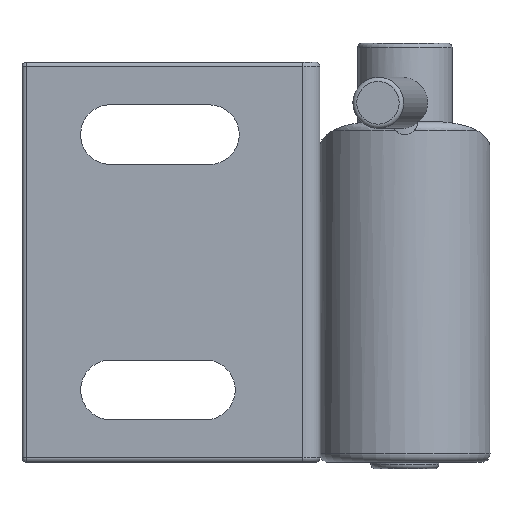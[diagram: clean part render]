
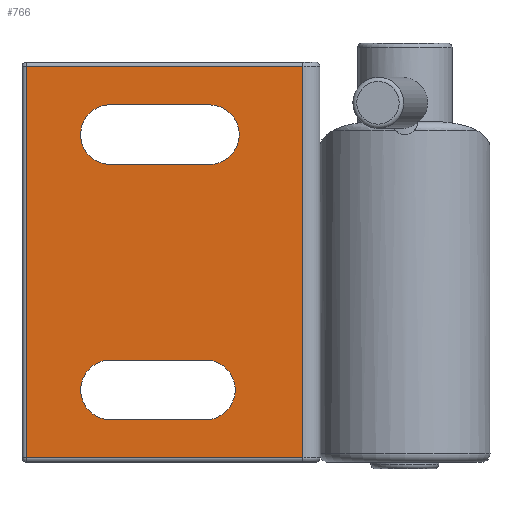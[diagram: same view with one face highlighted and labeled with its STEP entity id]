
A CAD part, left-side view. The second image highlights one B-rep face of the part: STEP entity #766.
In plain terms, the highlighted planar face has unit normal (-1, 0, 0).
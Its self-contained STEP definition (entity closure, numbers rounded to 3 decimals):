
#555=LINE('',#2163,#611);
#556=LINE('',#2168,#612);
#557=LINE('',#2171,#613);
#558=LINE('',#2174,#614);
#559=LINE('',#2176,#615);
#560=LINE('',#2178,#616);
#561=LINE('',#2182,#617);
#562=LINE('',#2186,#618);
#611=VECTOR('',#1792,1.);
#612=VECTOR('',#1795,1.);
#613=VECTOR('',#1798,1.);
#614=VECTOR('',#1799,1.);
#615=VECTOR('',#1800,1.);
#616=VECTOR('',#1801,1.);
#617=VECTOR('',#1804,1.);
#618=VECTOR('',#1807,1.);
#721=FACE_BOUND('',#924,.T.);
#722=FACE_BOUND('',#925,.T.);
#723=FACE_BOUND('',#926,.T.);
#766=ADVANCED_FACE('',(#721,#722,#723),#839,.F.);
#839=PLANE('',#1616);
#924=EDGE_LOOP('',(#1035,#1036,#1037,#1038));
#925=EDGE_LOOP('',(#1039,#1040,#1041,#1042));
#926=EDGE_LOOP('',(#1043,#1044,#1045,#1046));
#1035=ORIENTED_EDGE('',*,*,#1401,.F.);
#1036=ORIENTED_EDGE('',*,*,#1402,.F.);
#1037=ORIENTED_EDGE('',*,*,#1403,.F.);
#1038=ORIENTED_EDGE('',*,*,#1404,.F.);
#1039=ORIENTED_EDGE('',*,*,#1405,.F.);
#1040=ORIENTED_EDGE('',*,*,#1406,.T.);
#1041=ORIENTED_EDGE('',*,*,#1407,.T.);
#1042=ORIENTED_EDGE('',*,*,#1408,.T.);
#1043=ORIENTED_EDGE('',*,*,#1409,.F.);
#1044=ORIENTED_EDGE('',*,*,#1410,.F.);
#1045=ORIENTED_EDGE('',*,*,#1411,.F.);
#1046=ORIENTED_EDGE('',*,*,#1412,.F.);
#1311=VERTEX_POINT('',#2164);
#1312=VERTEX_POINT('',#2165);
#1313=VERTEX_POINT('',#2167);
#1314=VERTEX_POINT('',#2169);
#1315=VERTEX_POINT('',#2172);
#1316=VERTEX_POINT('',#2173);
#1317=VERTEX_POINT('',#2175);
#1318=VERTEX_POINT('',#2177);
#1319=VERTEX_POINT('',#2180);
#1320=VERTEX_POINT('',#2181);
#1321=VERTEX_POINT('',#2183);
#1322=VERTEX_POINT('',#2185);
#1401=EDGE_CURVE('',#1311,#1312,#555,.T.);
#1402=EDGE_CURVE('',#1313,#1311,#1533,.T.);
#1403=EDGE_CURVE('',#1314,#1313,#556,.T.);
#1404=EDGE_CURVE('',#1312,#1314,#1534,.T.);
#1405=EDGE_CURVE('',#1315,#1316,#557,.T.);
#1406=EDGE_CURVE('',#1315,#1317,#558,.T.);
#1407=EDGE_CURVE('',#1317,#1318,#559,.T.);
#1408=EDGE_CURVE('',#1318,#1316,#560,.T.);
#1409=EDGE_CURVE('',#1319,#1320,#1535,.T.);
#1410=EDGE_CURVE('',#1321,#1319,#561,.T.);
#1411=EDGE_CURVE('',#1322,#1321,#1536,.T.);
#1412=EDGE_CURVE('',#1320,#1322,#562,.T.);
#1533=CIRCLE('',#1612,3.533);
#1534=CIRCLE('',#1613,3.525);
#1535=CIRCLE('',#1614,3.5);
#1536=CIRCLE('',#1615,3.523);
#1612=AXIS2_PLACEMENT_3D('',#2166,#1793,#1794);
#1613=AXIS2_PLACEMENT_3D('',#2170,#1796,#1797);
#1614=AXIS2_PLACEMENT_3D('',#2179,#1802,#1803);
#1615=AXIS2_PLACEMENT_3D('',#2184,#1805,#1806);
#1616=AXIS2_PLACEMENT_3D('',#2187,#1808,#1809);
#1792=DIRECTION('',(0.,1.,0.));
#1793=DIRECTION('',(-1.,0.,0.));
#1794=DIRECTION('',(0.,1.,0.));
#1795=DIRECTION('',(0.,-1.,0.));
#1796=DIRECTION('',(-1.,0.,0.));
#1797=DIRECTION('',(0.,1.,0.));
#1798=DIRECTION('',(0.,0.,-1.));
#1799=DIRECTION('',(0.,1.,0.));
#1800=DIRECTION('',(0.,0.,-1.));
#1801=DIRECTION('',(0.,-1.,0.));
#1802=DIRECTION('',(-1.,0.,0.));
#1803=DIRECTION('',(0.,1.,0.));
#1804=DIRECTION('',(0.,-1.,0.));
#1805=DIRECTION('',(-1.,0.,0.));
#1806=DIRECTION('',(0.,1.,0.));
#1807=DIRECTION('',(0.,1.,0.));
#1808=DIRECTION('',(1.,0.,0.));
#1809=DIRECTION('',(0.,1.,0.));
#2163=CARTESIAN_POINT('',(0.,35.,12.));
#2164=CARTESIAN_POINT('',(0.,13.,12.));
#2165=CARTESIAN_POINT('',(0.,25.,12.));
#2166=CARTESIAN_POINT('',(0.,13.484,8.5));
#2167=CARTESIAN_POINT('',(0.,13.,5.));
#2168=CARTESIAN_POINT('',(0.,35.,5.));
#2169=CARTESIAN_POINT('',(0.,25.,5.));
#2170=CARTESIAN_POINT('',(0.,24.578,8.5));
#2171=CARTESIAN_POINT('',(0.,2.,47.));
#2172=CARTESIAN_POINT('',(0.,2.,46.5));
#2173=CARTESIAN_POINT('',(0.,2.,0.5));
#2174=CARTESIAN_POINT('',(0.,35.,46.5));
#2175=CARTESIAN_POINT('',(0.,34.5,46.5));
#2176=CARTESIAN_POINT('',(0.,34.5,47.));
#2177=CARTESIAN_POINT('',(0.,34.5,0.5));
#2178=CARTESIAN_POINT('',(0.,35.,0.5));
#2179=CARTESIAN_POINT('',(0.,12.976,38.5));
#2180=CARTESIAN_POINT('',(0.,13.,35.));
#2181=CARTESIAN_POINT('',(0.,13.,42.));
#2182=CARTESIAN_POINT('',(0.,35.,35.));
#2183=CARTESIAN_POINT('',(0.,25.,35.));
#2184=CARTESIAN_POINT('',(0.,24.595,38.5));
#2185=CARTESIAN_POINT('',(0.,25.,42.));
#2186=CARTESIAN_POINT('',(0.,35.,42.));
#2187=CARTESIAN_POINT('',(0.,35.,47.));
